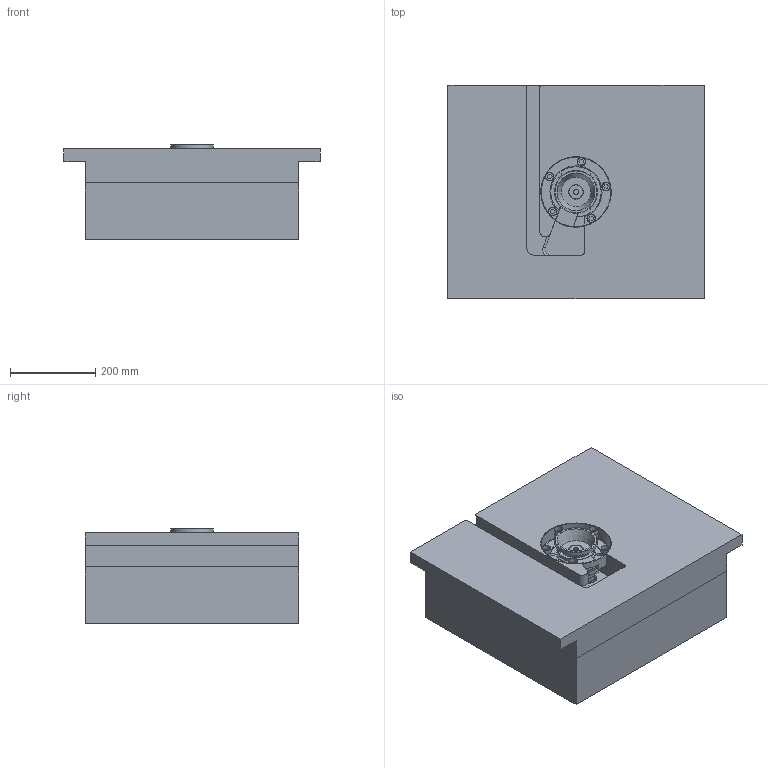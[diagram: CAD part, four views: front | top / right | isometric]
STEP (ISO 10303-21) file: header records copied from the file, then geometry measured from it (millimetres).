
FILE_DESCRIPTION( ( 'STEP AP214' ), '1' );
FILE_NAME( '//Gabi/d on gabi/PROIECTE_YUDO_2009/PROIECTE YUDO 3D/SAS/YUEU09-SAS42VC170_6/YUEU09-SAS42VC170.step', '2009-03-03T10:20:59', ( ' ' ), ( ' ' ), 'XStep 1.0', ' ', ' ' );
FILE_SCHEMA( ( 'automotive_design' ) );
Length unit declared in the file: millimetre
Products named in the file (26): 1; 2; 3; 4; 5; 6; 7; 8; 9; 10; 11; 12; 13; 14; 15; 16; 17; 18; 19; 20; 21; 22; 23; 24; 25; 26
Bounding box: 600 x 500 x 222.5 mm (x, y, z)
Volume: 53573695.7 mm3; surface area: 1827509.3 mm2
Topology: 26 solids, 26 shells, 612 faces, 1327 edges, 874 vertices
Faces by surface type: plane 341, cylinder 193, cone 64, torus 12, bspline 2
Full cylindrical faces by diameter (mm): 2.5 x2, 3.6 x2, 5.34 x8, 5.35 x16, 6 x18, 7 x12, 10 x10, 10.5 x1, 11.34 x5, 11.35 x10, 12 x5, 12.5 x1, 13 x5, 14 x5, 19 x5, 20 x5, 28 x1, 33 x2, 36 x1, 39 x1, 42 x4, 51.4 x1, 57 x1, 58 x2, 85 x1, 100 x1, 119 x4, 120 x4, 165 x1
Entity records: 20813 total; most frequent: CARTESIAN_POINT 2859, DIRECTION 2777, ORIENTED_EDGE 2136, AXIS2_PLACEMENT_3D 1112, EDGE_CURVE 1068, EDGE_LOOP 939, VERTEX_POINT 824, FACE_OUTER_BOUND 758
